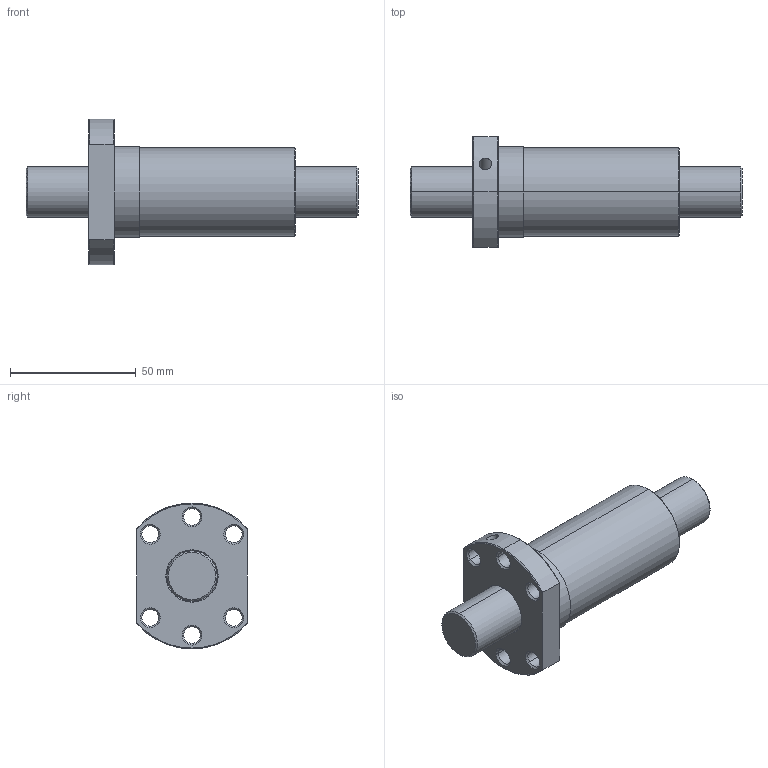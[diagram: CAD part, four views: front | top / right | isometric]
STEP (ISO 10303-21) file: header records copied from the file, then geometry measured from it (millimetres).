
FILE_DESCRIPTION(('no description'),'unknown implementation level');
FILE_NAME('R20_05T4_DDB_132_132_0_023_53.stp',' ',('HIWIN GmbH'),('CADClick - KiM GmbH - www.kimweb.de'),'unknown preprocess','ACIS','unknown authorization');
FILE_SCHEMA(('CONFIG_CONTROL_DESIGN'));
Length unit declared in the file: millimetre
Products named in the file (2): 1; 2
Bounding box: 132 x 44 x 58 mm (x, y, z)
Volume: 105949 mm3; surface area: 28486.9 mm2
Topology: 2 solids, 2 shells, 78 faces, 176 edges, 103 vertices
Faces by surface type: cone 44, cylinder 26, plane 8
Entity records: 2329 total; most frequent: CARTESIAN_POINT 440, DIRECTION 416, ORIENTED_EDGE 348, EDGE_CURVE 174, AXIS2_PLACEMENT_3D 172, VERTEX_POINT 103, EDGE_LOOP 95, CIRCLE 92
